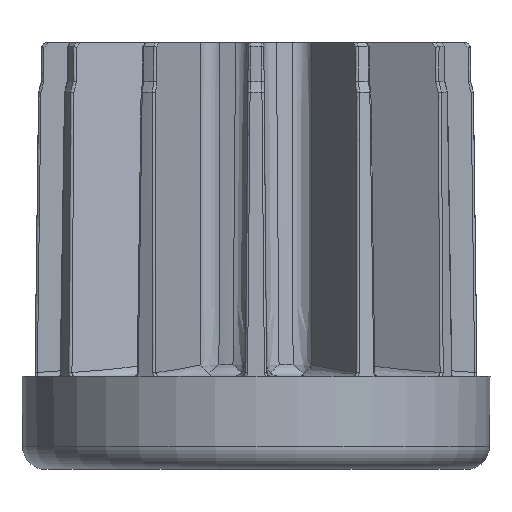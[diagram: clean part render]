
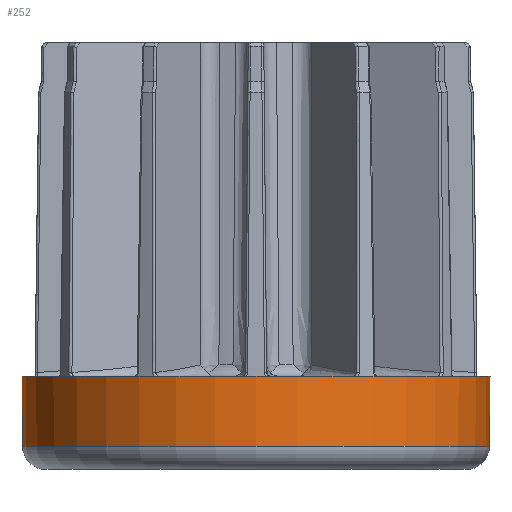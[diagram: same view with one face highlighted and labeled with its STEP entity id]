
A CAD part, front view. The second image highlights one B-rep face of the part: STEP entity #252.
In plain terms, the highlighted conical face has half-angle 0.5 degrees and reference radius 30.15 mm.
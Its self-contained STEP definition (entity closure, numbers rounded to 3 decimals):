
#196=CARTESIAN_POINT('Line Origine',(-30.098,0.,6.)) ;
#200=CARTESIAN_POINT('Vertex',(-30.15,0.,12.)) ;
#202=CARTESIAN_POINT('Vertex',(-30.071,0.,2.974)) ;
#209=CARTESIAN_POINT('Vertex',(30.15,0.,12.)) ;
#212=CARTESIAN_POINT('Line Origine',(30.098,0.,6.)) ;
#216=CARTESIAN_POINT('Vertex',(30.071,0.,2.974)) ;
#231=CARTESIAN_POINT('Axis2P3D Location',(0.,0.,12.)) ;
#236=CARTESIAN_POINT('Axis2P3D Location',(0.,0.,12.)) ;
#241=CARTESIAN_POINT('Axis2P3D Location',(0.,0.,2.974)) ;
#197=DIRECTION('Vector Direction',(-0.009,0.,1.)) ;
#213=DIRECTION('Vector Direction',(0.009,0.,1.)) ;
#232=DIRECTION('Axis2P3D Direction',(0.,0.,1.)) ;
#233=DIRECTION('Axis2P3D XDirection',(-1.,0.,0.)) ;
#237=DIRECTION('Axis2P3D Direction',(0.,0.,1.)) ;
#242=DIRECTION('Axis2P3D Direction',(0.,0.,1.)) ;
#234=AXIS2_PLACEMENT_3D('Cone Axis2P3D',#231,#232,#233) ;
#238=AXIS2_PLACEMENT_3D('Circle Axis2P3D',#236,#237,$) ;
#243=AXIS2_PLACEMENT_3D('Circle Axis2P3D',#241,#242,$) ;
#247=ORIENTED_EDGE('',*,*,#218,.F.) ;
#248=ORIENTED_EDGE('',*,*,#240,.F.) ;
#249=ORIENTED_EDGE('',*,*,#204,.T.) ;
#250=ORIENTED_EDGE('',*,*,#245,.F.) ;
#198=VECTOR('Line Direction',#197,1.) ;
#214=VECTOR('Line Direction',#213,1.) ;
#252=ADVANCED_FACE('PartBody',(#251),#235,.T.) ;
#239=CIRCLE('generated circle',#238,30.15) ;
#244=CIRCLE('generated circle',#243,30.071) ;
#235=CONICAL_SURFACE('Cone',#234,30.15,0.009) ;
#204=EDGE_CURVE('',#201,#203,#199,.F.) ;
#218=EDGE_CURVE('',#210,#217,#215,.F.) ;
#240=EDGE_CURVE('',#201,#210,#239,.T.) ;
#245=EDGE_CURVE('',#217,#203,#244,.F.) ;
#246=EDGE_LOOP('',(#247,#248,#249,#250)) ;
#251=FACE_OUTER_BOUND('',#246,.T.) ;
#199=LINE('Line',#196,#198) ;
#215=LINE('Line',#212,#214) ;
#201=VERTEX_POINT('',#200) ;
#203=VERTEX_POINT('',#202) ;
#210=VERTEX_POINT('',#209) ;
#217=VERTEX_POINT('',#216) ;
